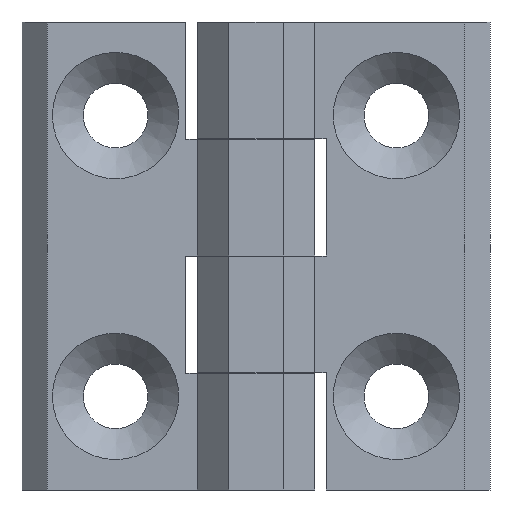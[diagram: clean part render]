
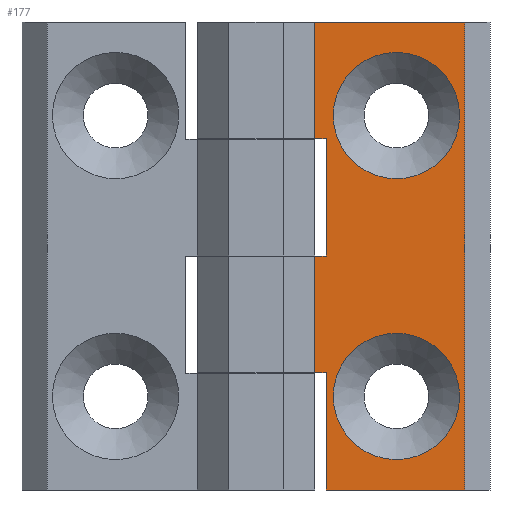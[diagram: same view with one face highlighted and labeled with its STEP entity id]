
A CAD part, front view. The second image highlights one B-rep face of the part: STEP entity #177.
In plain terms, the highlighted planar face has unit normal (0, -1, 0).
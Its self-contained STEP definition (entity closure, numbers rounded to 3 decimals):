
#177 = ADVANCED_FACE( '', ( #265, #266, #267 ), #268, .F. );
#265 = FACE_BOUND( '', #451, .T. );
#266 = FACE_BOUND( '', #452, .T. );
#267 = FACE_OUTER_BOUND( '', #453, .T. );
#268 = PLANE( '', #454 );
#451 = EDGE_LOOP( '', ( #679 ) );
#452 = EDGE_LOOP( '', ( #680 ) );
#453 = EDGE_LOOP( '', ( #681, #682, #683, #684, #685, #686, #687, #688, #689, #690 ) );
#454 = AXIS2_PLACEMENT_3D( '', #691, #692, #693 );
#679 = ORIENTED_EDGE( '', *, *, #1231, .T. );
#680 = ORIENTED_EDGE( '', *, *, #1232, .T. );
#681 = ORIENTED_EDGE( '', *, *, #1233, .F. );
#682 = ORIENTED_EDGE( '', *, *, #1234, .F. );
#683 = ORIENTED_EDGE( '', *, *, #1235, .F. );
#684 = ORIENTED_EDGE( '', *, *, #1236, .T. );
#685 = ORIENTED_EDGE( '', *, *, #1237, .F. );
#686 = ORIENTED_EDGE( '', *, *, #1238, .F. );
#687 = ORIENTED_EDGE( '', *, *, #1239, .T. );
#688 = ORIENTED_EDGE( '', *, *, #1230, .F. );
#689 = ORIENTED_EDGE( '', *, *, #1240, .F. );
#690 = ORIENTED_EDGE( '', *, *, #1241, .T. );
#691 = CARTESIAN_POINT( '', ( 7.5, 0.5, 60. ) );
#692 = DIRECTION( '', ( 0., 1., 0. ) );
#693 = DIRECTION( '', ( -1., 0., 0. ) );
#1230 = EDGE_CURVE( '', #1434, #1432, #1436, .T. );
#1231 = EDGE_CURVE( '', #1437, #1437, #1438, .T. );
#1232 = EDGE_CURVE( '', #1439, #1439, #1440, .T. );
#1233 = EDGE_CURVE( '', #1441, #1442, #1443, .T. );
#1234 = EDGE_CURVE( '', #1444, #1441, #1445, .T. );
#1235 = EDGE_CURVE( '', #1446, #1444, #1447, .T. );
#1236 = EDGE_CURVE( '', #1446, #1448, #1449, .T. );
#1237 = EDGE_CURVE( '', #1450, #1448, #1451, .T. );
#1238 = EDGE_CURVE( '', #1452, #1450, #1453, .T. );
#1239 = EDGE_CURVE( '', #1452, #1432, #1454, .T. );
#1240 = EDGE_CURVE( '', #1455, #1434, #1456, .T. );
#1241 = EDGE_CURVE( '', #1455, #1442, #1457, .T. );
#1432 = VERTEX_POINT( '', #1760 );
#1434 = VERTEX_POINT( '', #1763 );
#1436 = LINE( '', #1766, #1767 );
#1437 = VERTEX_POINT( '', #1768 );
#1438 = CIRCLE( '', #1769, 8.1 );
#1439 = VERTEX_POINT( '', #1770 );
#1440 = CIRCLE( '', #1771, 8.1 );
#1441 = VERTEX_POINT( '', #1772 );
#1442 = VERTEX_POINT( '', #1773 );
#1443 = LINE( '', #1774, #1775 );
#1444 = VERTEX_POINT( '', #1776 );
#1445 = LINE( '', #1777, #1778 );
#1446 = VERTEX_POINT( '', #1779 );
#1447 = LINE( '', #1780, #1781 );
#1448 = VERTEX_POINT( '', #1782 );
#1449 = LINE( '', #1783, #1784 );
#1450 = VERTEX_POINT( '', #1785 );
#1451 = LINE( '', #1786, #1787 );
#1452 = VERTEX_POINT( '', #1788 );
#1453 = LINE( '', #1789, #1790 );
#1454 = LINE( '', #1791, #1792 );
#1455 = VERTEX_POINT( '', #1793 );
#1456 = LINE( '', #1794, #1795 );
#1457 = LINE( '', #1796, #1797 );
#1760 = CARTESIAN_POINT( '', ( 26.75, 0.5, 0. ) );
#1763 = CARTESIAN_POINT( '', ( 26.75, 0.5, 60. ) );
#1766 = CARTESIAN_POINT( '', ( 26.75, 0.5, 60. ) );
#1767 = VECTOR( '', #2178, 1000. );
#1768 = CARTESIAN_POINT( '', ( 18., 0.5, 56.1 ) );
#1769 = AXIS2_PLACEMENT_3D( '', #2179, #2180, #2181 );
#1770 = CARTESIAN_POINT( '', ( 18., 0.5, 20.1 ) );
#1771 = AXIS2_PLACEMENT_3D( '', #2182, #2183, #2184 );
#1772 = CARTESIAN_POINT( '', ( 9., 0.5, 45.05 ) );
#1773 = CARTESIAN_POINT( '', ( 7.5, 0.5, 45.05 ) );
#1774 = CARTESIAN_POINT( '', ( 7.5, 0.5, 45.05 ) );
#1775 = VECTOR( '', #2185, 1000. );
#1776 = CARTESIAN_POINT( '', ( 9., 0.5, 30. ) );
#1777 = CARTESIAN_POINT( '', ( 9., 0.5, 60. ) );
#1778 = VECTOR( '', #2186, 1000. );
#1779 = CARTESIAN_POINT( '', ( 7.5, 0.5, 30. ) );
#1780 = CARTESIAN_POINT( '', ( 7.5, 0.5, 30. ) );
#1781 = VECTOR( '', #2187, 1000. );
#1782 = CARTESIAN_POINT( '', ( 7.5, 0.5, 15.05 ) );
#1783 = CARTESIAN_POINT( '', ( 7.5, 0.5, 60. ) );
#1784 = VECTOR( '', #2188, 1000. );
#1785 = CARTESIAN_POINT( '', ( 9., 0.5, 15.05 ) );
#1786 = CARTESIAN_POINT( '', ( 7.5, 0.5, 15.05 ) );
#1787 = VECTOR( '', #2189, 1000. );
#1788 = CARTESIAN_POINT( '', ( 9., 0.5, 0. ) );
#1789 = CARTESIAN_POINT( '', ( 9., 0.5, 60. ) );
#1790 = VECTOR( '', #2190, 1000. );
#1791 = CARTESIAN_POINT( '', ( 7.5, 0.5, 0. ) );
#1792 = VECTOR( '', #2191, 1000. );
#1793 = CARTESIAN_POINT( '', ( 7.5, 0.5, 60. ) );
#1794 = CARTESIAN_POINT( '', ( 7.5, 0.5, 60. ) );
#1795 = VECTOR( '', #2192, 1000. );
#1796 = CARTESIAN_POINT( '', ( 7.5, 0.5, 60. ) );
#1797 = VECTOR( '', #2193, 1000. );
#2178 = DIRECTION( '', ( 0., 0., -1. ) );
#2179 = CARTESIAN_POINT( '', ( 18., 0.5, 48. ) );
#2180 = DIRECTION( '', ( 0., 1., 0. ) );
#2181 = DIRECTION( '', ( 0., 0., 1. ) );
#2182 = CARTESIAN_POINT( '', ( 18., 0.5, 12. ) );
#2183 = DIRECTION( '', ( 0., 1., 0. ) );
#2184 = DIRECTION( '', ( 0., 0., 1. ) );
#2185 = DIRECTION( '', ( -1., 0., 0. ) );
#2186 = DIRECTION( '', ( 0., 0., 1. ) );
#2187 = DIRECTION( '', ( 1., 0., 0. ) );
#2188 = DIRECTION( '', ( 0., 0., -1. ) );
#2189 = DIRECTION( '', ( -1., 0., 0. ) );
#2190 = DIRECTION( '', ( 0., 0., 1. ) );
#2191 = DIRECTION( '', ( 1., 0., 0. ) );
#2192 = DIRECTION( '', ( 1., 0., 0. ) );
#2193 = DIRECTION( '', ( 0., 0., -1. ) );
